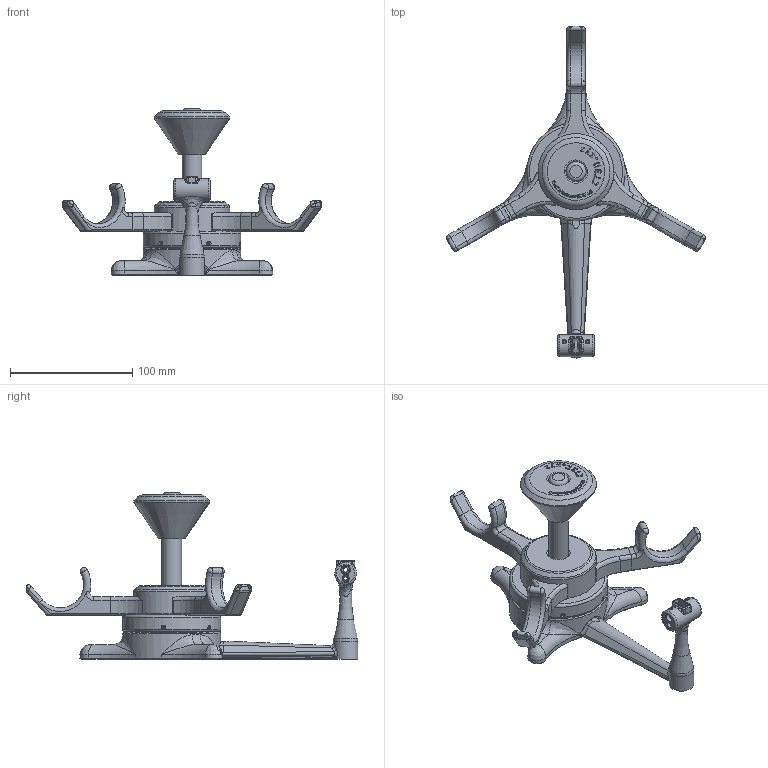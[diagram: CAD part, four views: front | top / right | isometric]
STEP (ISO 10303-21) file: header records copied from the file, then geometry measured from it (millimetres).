
FILE_DESCRIPTION(/* description */ (''),/* implementation_level */ '2;1');
FILE_NAME(/* name */ '/Users/paulokiefe/Desktop/asdf.stp',/* time_stamp */ '2016-12-21T10:05:16+01:00',/* author */ (''),/* organization */ (''),/* preprocessor_version */ 'ST-DEVELOPER v16.5',/* originating_system */ 'Autodesk Translation Framework v5.2.0.2920',/* authorisation */ '');
FILE_SCHEMA (('AUTOMOTIVE_DESIGN { 1 0 10303 214 3 1 1 }'));
Length unit declared in the file: millimetre
Products named in the file (10): Universal stand-alone filament spool holder (Fully 3D-printable) v2; Coreless spool-holder (attachment) <1139>; Claw; Coreless spool-holder (attachment); Assembly - Function; Guide-tube holder and filament filter; Centerring and locking cone; Bearing wheel; Spool spindel; Tripod base
Assembly tree (15 placements, depth 3):
  Universal stand-alone filament spool holder (Fully 3D-printable) v2
    Coreless spool-holder (attachment) <1139>  x2
      Claw
      Coreless spool-holder (attachment)
    Assembly - Function
    Guide-tube holder and filament filter
    Centerring and locking cone
    Bearing wheel  x6
    Spool spindel
    Tripod base
Bounding box: 211.42 x 271 x 136 mm (x, y, z)
Volume: 412739.7 mm3; surface area: 109629.1 mm2
Topology: 15 solids, 15 shells, 3801 faces, 10390 edges, 6816 vertices
Faces by surface type: bspline 2382, plane 1109, cylinder 153, cone 101, torus 50, sphere 6
Full cylindrical faces by diameter (mm): 2.3 x16, 2.6 x7, 3 x2, 3.5 x4, 4 x3, 11.5 x2, 16 x7, 17 x2, 20 x1, 62 x2, 65.6 x1, 74 x1, 80 x2
Entity records: 173073 total; most frequent: CARTESIAN_POINT 91615, ORIENTED_EDGE 19918, EDGE_CURVE 9959, DIRECTION 8920, VERTEX_POINT 6614, LINE 4670, VECTOR 4670, B_SPLINE_CURVE_WITH_KNOTS 4483
